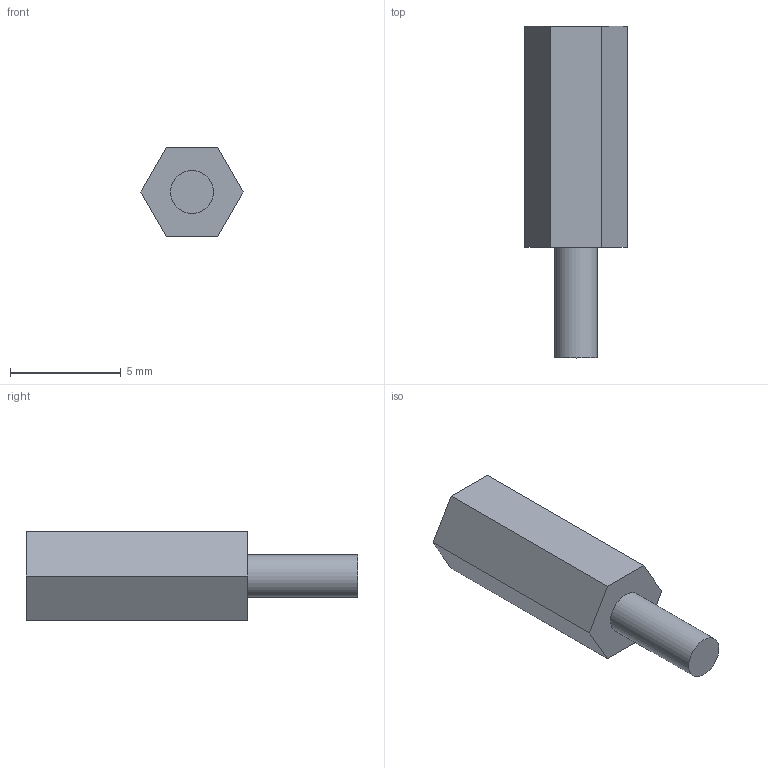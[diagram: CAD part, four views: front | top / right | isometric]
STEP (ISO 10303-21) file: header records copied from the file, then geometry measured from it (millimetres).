
FILE_DESCRIPTION(/* description */ (''),/* implementation_level */ '2;1');
FILE_NAME(/* name */ 'C:/Users/priba/Documents/Temp/mrm-spac10m2nyl.step',/* time_stamp */ '2020-04-08T14:18:08+02:00',/* author */ (''),/* organization */ (''),/* preprocessor_version */ 'ST-DEVELOPER v18',/* originating_system */ 'Autodesk Translation Framework v8.12.0.6',/* authorisation */ '');
FILE_SCHEMA (('AUTOMOTIVE_DESIGN { 1 0 10303 214 3 1 1 }'));
Length unit declared in the file: millimetre
Products named in the file (1): mrm-spac10m2nyl
Bounding box: 4.62 x 15 x 4 mm (x, y, z)
Volume: 140 mm3; surface area: 222.3 mm2
Topology: 1 solids, 1 shells, 12 faces, 28 edges, 19 vertices
Faces by surface type: plane 9, cylinder 2, cone 1
Full cylindrical faces by diameter (mm): 1.933 x1, 2 x1
Entity records: 374 total; most frequent: DIRECTION 59, CARTESIAN_POINT 59, ORIENTED_EDGE 54, EDGE_CURVE 27, LINE 21, VECTOR 21, VERTEX_POINT 19, AXIS2_PLACEMENT_3D 19
